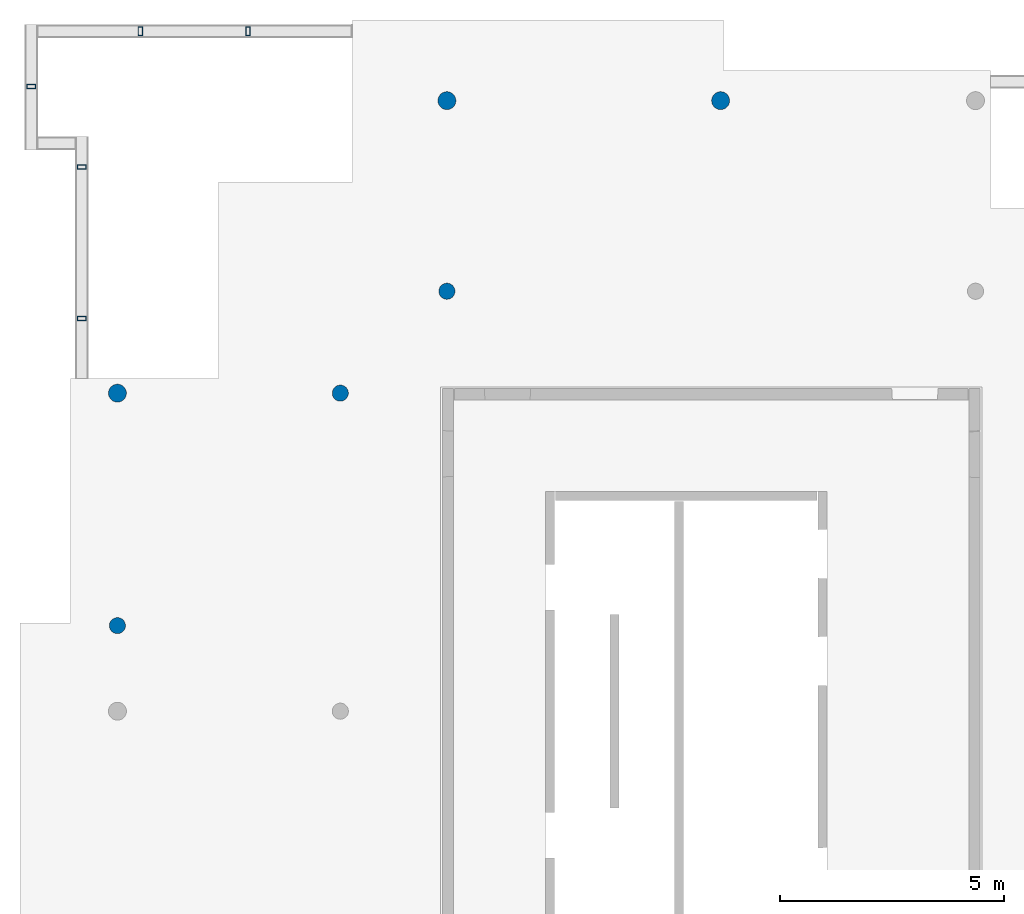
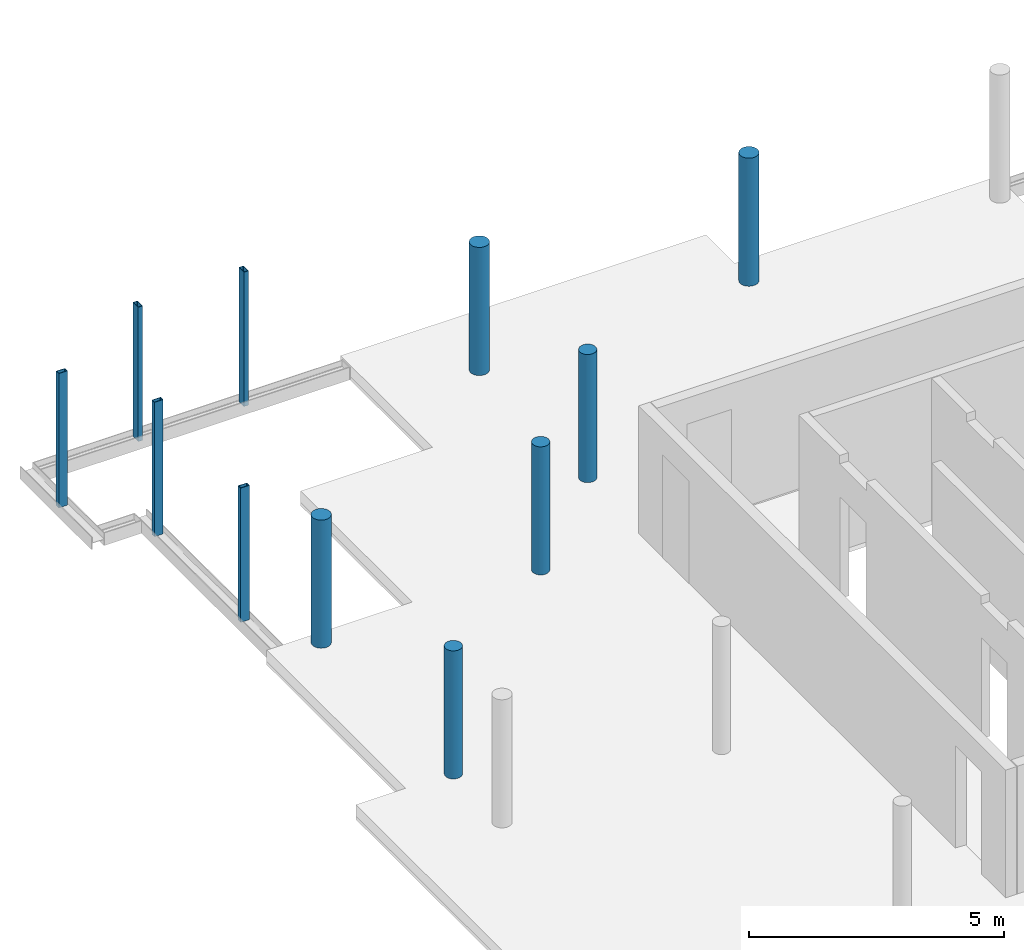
# One storey, part 3 of 7: 11 columns.
"""IFC2X3 building model written with IfcOpenShell, lengths in millimetres."""

from ifc_helpers import new_model, entity, si_unit, converted_unit, derived_unit, direction, frame, frame_2d, origin, origin_2d_with_axis, place, context, subcontext, project, spatial, polyline, circle_curve, parameter, trimmed, segment, composite_curve, circle, outline, extrude, source, transform, mapped, material, type_object, type_shapes, element, save


model = new_model("IFC2X3")

# Units and contexts
model_context = context("Model", 3, precision=0.01, world=origin(), true_north=direction((6.12303176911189e-17, 1.0)))
body_context = subcontext(model_context, "Body", "Model", "MODEL_VIEW")
ifc_project = project(units=[si_unit("LENGTHUNIT", "METRE", prefix="MILLI"), si_unit("AREAUNIT", "SQUARE_METRE"), si_unit("VOLUMEUNIT", "CUBIC_METRE"), converted_unit("PLANEANGLEUNIT", "DEGREE", entity("IfcRatioMeasure", 0.0174532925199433), si_unit("PLANEANGLEUNIT", "RADIAN"), dimensions=[0, 0, 0, 0, 0, 0, 0]), si_unit("MASSUNIT", "GRAM", prefix="KILO"), derived_unit("MASSDENSITYUNIT", [(si_unit("MASSUNIT", "GRAM", prefix="KILO"), 1), (si_unit("LENGTHUNIT", "METRE"), -3)]), si_unit("TIMEUNIT", "SECOND"), si_unit("FREQUENCYUNIT", "HERTZ"), si_unit("THERMODYNAMICTEMPERATUREUNIT", "DEGREE_CELSIUS"), derived_unit("THERMALTRANSMITTANCEUNIT", [(si_unit("MASSUNIT", "GRAM", prefix="KILO"), 1), (si_unit("THERMODYNAMICTEMPERATUREUNIT", "KELVIN"), -1), (si_unit("TIMEUNIT", "SECOND"), -3)]), derived_unit("VOLUMETRICFLOWRATEUNIT", [(si_unit("LENGTHUNIT", "METRE"), 3), (si_unit("TIMEUNIT", "SECOND"), -1)]), si_unit("ELECTRICCURRENTUNIT", "AMPERE"), si_unit("ELECTRICVOLTAGEUNIT", "VOLT"), si_unit("POWERUNIT", "WATT"), si_unit("FORCEUNIT", "NEWTON", prefix="KILO"), si_unit("ILLUMINANCEUNIT", "LUX"), si_unit("LUMINOUSFLUXUNIT", "LUMEN"), si_unit("LUMINOUSINTENSITYUNIT", "CANDELA"), derived_unit("USERDEFINED", [(si_unit("MASSUNIT", "GRAM", prefix="KILO"), -1), (si_unit("LENGTHUNIT", "METRE"), -2), (si_unit("TIMEUNIT", "SECOND"), 3), (si_unit("LUMINOUSFLUXUNIT", "LUMEN"), 1)]), derived_unit("LINEARVELOCITYUNIT", [(si_unit("LENGTHUNIT", "METRE"), 1), (si_unit("TIMEUNIT", "SECOND"), -1)]), si_unit("PRESSUREUNIT", "PASCAL"), derived_unit("USERDEFINED", [(si_unit("LENGTHUNIT", "METRE"), -2), (si_unit("MASSUNIT", "GRAM", prefix="KILO"), 1), (si_unit("TIMEUNIT", "SECOND"), -2)])], contexts=[model_context])

# Site, building, storey
site_placement = place(None, origin())
site = spatial("IfcSite", under=ifc_project, at=site_placement, Name="Default", CompositionType="ELEMENT")
building_placement = place(site_placement, origin())
building = spatial("IfcBuilding", under=site, at=building_placement, Name="niet gebruiken", CompositionType="ELEMENT")
storey_placement = place(building_placement, frame((0.0, 0.0, 168300.0)))
storey = spatial("IfcBuildingStorey", under=building, at=storey_placement, Name="54 vierenvijftigste verdieping", CompositionType="ELEMENT", Elevation=168300.0)

# Columns
ifc_material_1 = material(Name="NLRS_f2_beton prefab")
column_type_1 = type_object("IfcColumnType", Name="ø400", PredefinedType="COLUMN", material=ifc_material_1)
shared_shape_1 = source(origin(), body_context, "Body", "SweptSolid", [
    extrude(circle(Radius=200.000000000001, at=origin_2d_with_axis()), frame((135850.0, 31130.0, 168230.0), z_axis=(0.0, 0.0, 1.0), x_axis=(0.0, -1.0, 0.0)), (0.0, 0.0, 1.0), 3070.0),
])
type_shapes(column_type_1, [shared_shape_1])
column_1_placement = place(storey_placement, frame((0.0, 0.0, -168300.0)))
element("IfcColumn", 1, at=column_1_placement, inside=storey, type_object=column_type_1, material=ifc_material_1, Name="NLRS_28. kolom rond_gen:ø400", ObjectType="ø400", context=body_context, shape_type="MappedRepresentation", body=[
    mapped(shared_shape_1, transform((0.0, 0.0, 0.0), scale=1.0)),
])
column_type_2 = type_object("IfcColumnType", Name="ø400", PredefinedType="COLUMN", material=ifc_material_1)
shared_shape_2 = source(origin(), body_context, "Body", "SweptSolid", [
    extrude(circle(Radius=199.999999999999, at=origin_2d_with_axis()), frame((141960.0, 31130.0, 168230.0), z_axis=(0.0, 0.0, 1.0), x_axis=(0.0, -1.0, 0.0)), (0.0, 0.0, 1.0), 3070.0),
])
type_shapes(column_type_2, [shared_shape_2])
column_2_placement = place(storey_placement, frame((0.0, 0.0, -168300.0)))
element("IfcColumn", 2, at=column_2_placement, inside=storey, type_object=column_type_2, material=ifc_material_1, Name="NLRS_28. kolom rond_gen:ø400", ObjectType="ø400", context=body_context, shape_type="MappedRepresentation", body=[
    mapped(shared_shape_2, transform((0.0, 0.0, 0.0), scale=1.0)),
])
column_type_3 = type_object("IfcColumnType", Name="ø360", PredefinedType="COLUMN", material=ifc_material_1)
shared_shape_3 = source(origin(), body_context, "Body", "SweptSolid", [
    extrude(circle(Radius=179.999999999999, at=origin_2d_with_axis()), frame((135850.0, 26875.0, 168230.0), z_axis=(0.0, 0.0, 1.0), x_axis=(0.0, -1.0, 0.0)), (0.0, 0.0, 1.0), 3070.0),
])
type_shapes(column_type_3, [shared_shape_3])
column_3_placement = place(storey_placement, frame((0.0, 0.0, -168300.0)))
element("IfcColumn", 3, at=column_3_placement, inside=storey, type_object=column_type_3, material=ifc_material_1, Name="NLRS_28. kolom rond_gen:ø360", ObjectType="ø360", context=body_context, shape_type="MappedRepresentation", body=[
    mapped(shared_shape_3, transform((0.0, 0.0, 0.0), scale=1.0)),
])
column_type_4 = type_object("IfcColumnType", Name="ø360", PredefinedType="COLUMN", material=ifc_material_1)
shared_shape_4 = source(origin(), body_context, "Body", "SweptSolid", [
    extrude(circle(Radius=179.999999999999, at=origin_2d_with_axis()), frame((133470.0, 24600.0, 168230.0), z_axis=(0.0, 0.0, 1.0), x_axis=(0.0, -1.0, 0.0)), (0.0, 0.0, 1.0), 3070.0),
])
type_shapes(column_type_4, [shared_shape_4])
column_4_placement = place(storey_placement, frame((0.0, 0.0, -168300.0)))
element("IfcColumn", 4, at=column_4_placement, inside=storey, type_object=column_type_4, material=ifc_material_1, Name="NLRS_28. kolom rond_gen:ø360", ObjectType="ø360", context=body_context, shape_type="MappedRepresentation", body=[
    mapped(shared_shape_4, transform((0.0, 0.0, 0.0), scale=1.0)),
])
column_type_5 = type_object("IfcColumnType", Name="ø360", PredefinedType="COLUMN", material=ifc_material_1)
shared_shape_5 = source(origin(), body_context, "Body", "SweptSolid", [
    extrude(circle(Radius=180.0, at=origin_2d_with_axis()), frame((128495.0, 19410.0, 168230.0), z_axis=(0.0, 0.0, 1.0), x_axis=(0.0, -1.0, 0.0)), (0.0, 0.0, 1.0), 3070.0),
])
type_shapes(column_type_5, [shared_shape_5])
column_5_placement = place(storey_placement, frame((0.0, 0.0, -168300.0)))
element("IfcColumn", 5, at=column_5_placement, inside=storey, type_object=column_type_5, material=ifc_material_1, Name="NLRS_28. kolom rond_gen:ø360", ObjectType="ø360", context=body_context, shape_type="MappedRepresentation", body=[
    mapped(shared_shape_5, transform((0.0, 0.0, 0.0), scale=1.0)),
])
column_type_6 = type_object("IfcColumnType", Name="ø400", PredefinedType="COLUMN", material=ifc_material_1)
shared_shape_6 = source(origin(), body_context, "Body", "SweptSolid", [
    extrude(circle(Radius=199.999999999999, at=origin_2d_with_axis()), frame((128495.0, 24600.0, 168230.0), z_axis=(0.0, 0.0, 1.0), x_axis=(0.0, -1.0, 0.0)), (0.0, 0.0, 1.0), 3070.0),
])
type_shapes(column_type_6, [shared_shape_6])
column_6_placement = place(storey_placement, frame((0.0, 0.0, -168300.0)))
element("IfcColumn", 6, at=column_6_placement, inside=storey, type_object=column_type_6, material=ifc_material_1, Name="NLRS_28. kolom rond_gen:ø400", ObjectType="ø400", context=body_context, shape_type="MappedRepresentation", body=[
    mapped(shared_shape_6, transform((0.0, 0.0, 0.0), scale=1.0)),
])
ifc_material_2 = material(Name="NLRS_h2_staal")
column_type_7 = type_object("IfcColumnType", Name="kolom buisprofiel rechthoekig RHSH_200x100x10", PredefinedType="COLUMN", material=ifc_material_2)
shared_shape_7 = source(origin(), body_context, "Body", "SweptSolid", [
    extrude(outline(polyline([(-100.0, -50.0), (100.0, -50.0), (100.0, 50.0), (-100.0, 50.0), (-100.0, -50.0)]), holes=[composite_curve([segment(trimmed(circle_curve(frame_2d((-80.0, -30.0), x_axis=(0.0, 1.0)), 10.0), [parameter(90.0000000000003)], [parameter(180.0)], True, "PARAMETER"), False, "CONTINUOUS"), segment(polyline([(-90.0, -30.0), (-90.0, 30.0)]), True, "CONTINUOUS"), segment(trimmed(circle_curve(frame_2d((-80.0, 30.0), x_axis=(0.0, 1.0)), 10.0), [parameter(360.0)], [parameter(89.9999999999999)], True, "PARAMETER"), False, "CONTINUOUS"), segment(polyline([(-80.0, 40.0), (80.0, 40.0)]), True, "CONTINUOUS"), segment(trimmed(circle_curve(frame_2d((80.0, 30.0), x_axis=(0.0, 1.0)), 10.0), [parameter(270.0)], [parameter(360.0)], True, "PARAMETER"), False, "CONTINUOUS"), segment(polyline([(90.0, 30.0), (90.0, -30.0)]), True, "CONTINUOUS"), segment(trimmed(circle_curve(frame_2d((80.0, -30.0), x_axis=(0.0, 1.0)), 10.0), [parameter(180.0)], [parameter(270.0)], True, "PARAMETER"), False, "CONTINUOUS"), segment(polyline([(80.0, -40.0), (-80.0, -40.0)]), True, "CONTINUOUS")], self_intersect=False)]), frame((126570.0, 31445.0, 168040.5), z_axis=(0.0, 0.0, 1.0), x_axis=(-1.0, 0.0, 0.0)), (0.0, 0.0, 1.0), 3219.50000000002),
])
type_shapes(column_type_7, [shared_shape_7])
column_7_placement = place(storey_placement, frame((0.0, 0.0, -168300.0)))
element("IfcColumn", 7, at=column_7_placement, inside=storey, type_object=column_type_7, material=ifc_material_2, Name="NLRS_28.11_SCO_TLB_stalen kolom buisprofiel rechthoekig_gen:kolom buisprofiel rechthoekig RHSH_200x100x10", ObjectType="kolom buisprofiel rechthoekig RHSH_200x100x10", context=body_context, shape_type="MappedRepresentation", body=[
    mapped(shared_shape_7, transform((0.0, 0.0, 0.0), scale=1.0)),
])
column_type_8 = type_object("IfcColumnType", Name="kolom buisprofiel rechthoekig RHSH_200x100x10", PredefinedType="COLUMN", material=ifc_material_2)
shared_shape_8 = source(origin(), body_context, "Body", "SweptSolid", [
    extrude(outline(polyline([(-100.0, -50.0), (100.0, -50.0), (100.0, 50.0), (-100.0, 50.0), (-100.0, -50.0)]), holes=[composite_curve([segment(trimmed(circle_curve(frame_2d((-80.0, -30.0), x_axis=(0.0, 1.0)), 10.0), [parameter(90.0000000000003)], [parameter(180.0)], True, "PARAMETER"), False, "CONTINUOUS"), segment(polyline([(-90.0, -30.0), (-90.0, 30.0)]), True, "CONTINUOUS"), segment(trimmed(circle_curve(frame_2d((-80.0, 30.0), x_axis=(0.0, 1.0)), 10.0), [parameter(360.0)], [parameter(89.9999999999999)], True, "PARAMETER"), False, "CONTINUOUS"), segment(polyline([(-80.0, 40.0), (80.0, 40.0)]), True, "CONTINUOUS"), segment(trimmed(circle_curve(frame_2d((80.0, 30.0), x_axis=(0.0, 1.0)), 10.0), [parameter(270.0)], [parameter(360.0)], True, "PARAMETER"), False, "CONTINUOUS"), segment(polyline([(90.0, 30.0), (90.0, -30.0)]), True, "CONTINUOUS"), segment(trimmed(circle_curve(frame_2d((80.0, -30.0), x_axis=(0.0, 1.0)), 10.0), [parameter(180.0)], [parameter(270.0)], True, "PARAMETER"), False, "CONTINUOUS"), segment(polyline([(80.0, -40.0), (-80.0, -40.0)]), True, "CONTINUOUS")], self_intersect=False)]), frame((129005.0, 32680.0, 168040.5), z_axis=(0.0, 0.0, 1.0), x_axis=(0.0, 1.0, 0.0)), (0.0, 0.0, 1.0), 3219.50000000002),
])
type_shapes(column_type_8, [shared_shape_8])
column_8_placement = place(storey_placement, frame((0.0, 0.0, -168300.0)))
element("IfcColumn", 8, at=column_8_placement, inside=storey, type_object=column_type_8, material=ifc_material_2, Name="NLRS_28.11_SCO_TLB_stalen kolom buisprofiel rechthoekig_gen:kolom buisprofiel rechthoekig RHSH_200x100x10", ObjectType="kolom buisprofiel rechthoekig RHSH_200x100x10", context=body_context, shape_type="MappedRepresentation", body=[
    mapped(shared_shape_8, transform((0.0, 0.0, 0.0), scale=1.0)),
])
column_type_9 = type_object("IfcColumnType", Name="kolom buisprofiel rechthoekig RHSH_200x100x10", PredefinedType="COLUMN", material=ifc_material_2)
shared_shape_9 = source(origin(), body_context, "Body", "SweptSolid", [
    extrude(outline(polyline([(-100.0, -50.0), (100.0, -50.0), (100.0, 50.0), (-100.0, 50.0), (-100.0, -50.0)]), holes=[composite_curve([segment(trimmed(circle_curve(frame_2d((-80.0, -30.0), x_axis=(0.0, 1.0)), 10.0), [parameter(90.0000000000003)], [parameter(180.0)], True, "PARAMETER"), False, "CONTINUOUS"), segment(polyline([(-90.0, -30.0), (-90.0, 30.0)]), True, "CONTINUOUS"), segment(trimmed(circle_curve(frame_2d((-80.0, 30.0), x_axis=(0.0, 1.0)), 10.0), [parameter(360.0)], [parameter(89.9999999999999)], True, "PARAMETER"), False, "CONTINUOUS"), segment(polyline([(-80.0, 40.0), (80.0, 40.0)]), True, "CONTINUOUS"), segment(trimmed(circle_curve(frame_2d((80.0, 30.0), x_axis=(0.0, 1.0)), 10.0), [parameter(270.0)], [parameter(360.0)], True, "PARAMETER"), False, "CONTINUOUS"), segment(polyline([(90.0, 30.0), (90.0, -30.0)]), True, "CONTINUOUS"), segment(trimmed(circle_curve(frame_2d((80.0, -30.0), x_axis=(0.0, 1.0)), 10.0), [parameter(180.0)], [parameter(270.0)], True, "PARAMETER"), False, "CONTINUOUS"), segment(polyline([(80.0, -40.0), (-80.0, -40.0)]), True, "CONTINUOUS")], self_intersect=False)]), frame((131405.0, 32680.0, 168040.5), z_axis=(0.0, 0.0, 1.0), x_axis=(0.0, 1.0, 0.0)), (0.0, 0.0, 1.0), 3219.50000000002),
])
type_shapes(column_type_9, [shared_shape_9])
column_9_placement = place(storey_placement, frame((0.0, 0.0, -168300.0)))
element("IfcColumn", 9, at=column_9_placement, inside=storey, type_object=column_type_9, material=ifc_material_2, Name="NLRS_28.11_SCO_TLB_stalen kolom buisprofiel rechthoekig_gen:kolom buisprofiel rechthoekig RHSH_200x100x10", ObjectType="kolom buisprofiel rechthoekig RHSH_200x100x10", context=body_context, shape_type="MappedRepresentation", body=[
    mapped(shared_shape_9, transform((0.0, 0.0, 0.0), scale=1.0)),
])
column_type_10 = type_object("IfcColumnType", Name="kolom buisprofiel rechthoekig RHSH_200x100x10", PredefinedType="COLUMN", material=ifc_material_2)
shared_shape_10 = source(origin(), body_context, "Body", "SweptSolid", [
    extrude(outline(polyline([(-100.0, -50.0), (100.0, -50.0), (100.0, 50.0), (-100.0, 50.0), (-100.0, -50.0)]), holes=[composite_curve([segment(trimmed(circle_curve(frame_2d((-80.0, -30.0), x_axis=(0.0, 1.0)), 10.0), [parameter(90.0000000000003)], [parameter(180.0)], True, "PARAMETER"), False, "CONTINUOUS"), segment(polyline([(-90.0, -30.0), (-90.0, 30.0)]), True, "CONTINUOUS"), segment(trimmed(circle_curve(frame_2d((-80.0, 30.0), x_axis=(0.0, 1.0)), 10.0), [parameter(360.0)], [parameter(89.9999999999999)], True, "PARAMETER"), False, "CONTINUOUS"), segment(polyline([(-80.0, 40.0), (80.0, 40.0)]), True, "CONTINUOUS"), segment(trimmed(circle_curve(frame_2d((80.0, 30.0), x_axis=(0.0, 1.0)), 10.0), [parameter(270.0)], [parameter(360.0)], True, "PARAMETER"), False, "CONTINUOUS"), segment(polyline([(90.0, 30.0), (90.0, -30.0)]), True, "CONTINUOUS"), segment(trimmed(circle_curve(frame_2d((80.0, -30.0), x_axis=(0.0, 1.0)), 10.0), [parameter(180.0)], [parameter(270.0)], True, "PARAMETER"), False, "CONTINUOUS"), segment(polyline([(80.0, -40.0), (-80.0, -40.0)]), True, "CONTINUOUS")], self_intersect=False)]), frame((127701.0, 26265.0, 168040.5), z_axis=(0.0, 0.0, 1.0), x_axis=(-1.0, 0.0, 0.0)), (0.0, 0.0, 1.0), 3219.50000000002),
])
type_shapes(column_type_10, [shared_shape_10])
column_10_placement = place(storey_placement, frame((0.0, 0.0, -168300.0)))
element("IfcColumn", 10, at=column_10_placement, inside=storey, type_object=column_type_10, material=ifc_material_2, Name="NLRS_28.11_SCO_TLB_stalen kolom buisprofiel rechthoekig_gen:kolom buisprofiel rechthoekig RHSH_200x100x10", ObjectType="kolom buisprofiel rechthoekig RHSH_200x100x10", context=body_context, shape_type="MappedRepresentation", body=[
    mapped(shared_shape_10, transform((0.0, 0.0, 0.0), scale=1.0)),
])
column_type_11 = type_object("IfcColumnType", Name="kolom buisprofiel rechthoekig RHSH_200x100x10", PredefinedType="COLUMN", material=ifc_material_2)
shared_shape_11 = source(origin(), body_context, "Body", "SweptSolid", [
    extrude(outline(polyline([(-100.0, -50.0), (100.0, -50.0), (100.0, 50.0), (-100.0, 50.0), (-100.0, -50.0)]), holes=[composite_curve([segment(trimmed(circle_curve(frame_2d((-80.0, -30.0), x_axis=(0.0, 1.0)), 10.0), [parameter(90.0000000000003)], [parameter(180.0)], True, "PARAMETER"), False, "CONTINUOUS"), segment(polyline([(-90.0, -30.0), (-90.0, 30.0)]), True, "CONTINUOUS"), segment(trimmed(circle_curve(frame_2d((-80.0, 30.0), x_axis=(0.0, 1.0)), 10.0), [parameter(360.0)], [parameter(89.9999999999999)], True, "PARAMETER"), False, "CONTINUOUS"), segment(polyline([(-80.0, 40.0), (80.0, 40.0)]), True, "CONTINUOUS"), segment(trimmed(circle_curve(frame_2d((80.0, 30.0), x_axis=(0.0, 1.0)), 10.0), [parameter(270.0)], [parameter(360.0)], True, "PARAMETER"), False, "CONTINUOUS"), segment(polyline([(90.0, 30.0), (90.0, -30.0)]), True, "CONTINUOUS"), segment(trimmed(circle_curve(frame_2d((80.0, -30.0), x_axis=(0.0, 1.0)), 10.0), [parameter(180.0)], [parameter(270.0)], True, "PARAMETER"), False, "CONTINUOUS"), segment(polyline([(80.0, -40.0), (-80.0, -40.0)]), True, "CONTINUOUS")], self_intersect=False)]), frame((127701.0, 29652.0, 168040.5), z_axis=(0.0, 0.0, 1.0), x_axis=(-1.0, 0.0, 0.0)), (0.0, 0.0, 1.0), 3219.50000000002),
])
type_shapes(column_type_11, [shared_shape_11])
column_11_placement = place(storey_placement, frame((0.0, 0.0, -168300.0)))
element("IfcColumn", 11, at=column_11_placement, inside=storey, type_object=column_type_11, material=ifc_material_2, Name="NLRS_28.11_SCO_TLB_stalen kolom buisprofiel rechthoekig_gen:kolom buisprofiel rechthoekig RHSH_200x100x10", ObjectType="kolom buisprofiel rechthoekig RHSH_200x100x10", context=body_context, shape_type="MappedRepresentation", body=[
    mapped(shared_shape_11, transform((0.0, 0.0, 0.0), scale=1.0)),
])

save(model, "model.ifc")
